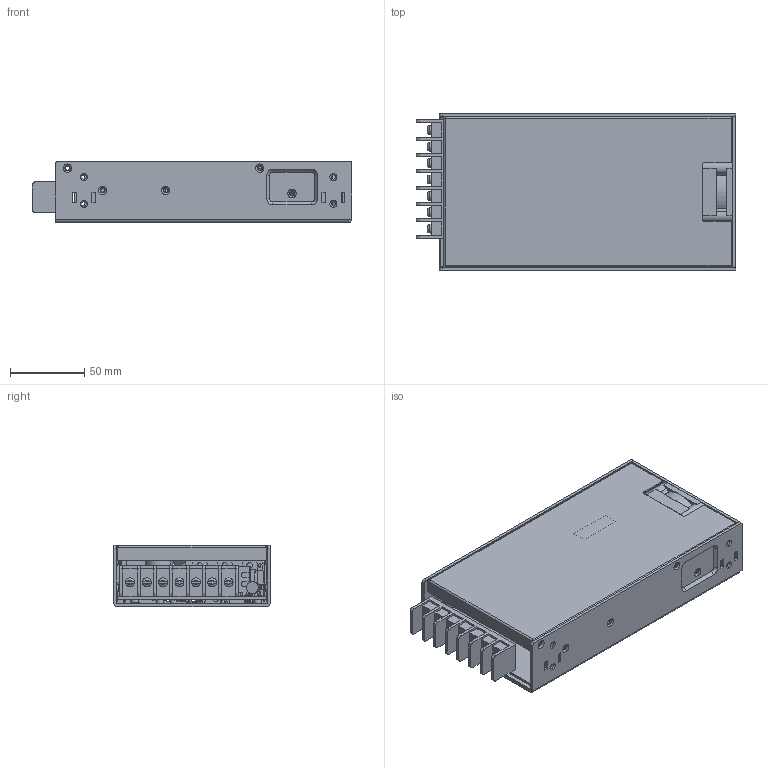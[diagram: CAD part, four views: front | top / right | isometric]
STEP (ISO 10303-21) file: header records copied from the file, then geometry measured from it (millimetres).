
FILE_DESCRIPTION(('Creo Elements/Direct Modeling STEP Export'),'2;1');
FILE_NAME('HRP-300NSTEP.stp','2020-10-22T11:49:40',(''),(''),'PTC Creo Elements/Direct Modeling STEP processor for AP214 (Solid Model)','PTC Creo Elements/Direct Modeling 19.0E 27-Jun-2016 (C) Parametric Technology GmbH','');
FILE_SCHEMA(('AUTOMOTIVE_DESIGN { 1 0 10303 214 1 1 1 1 }'));
Length unit declared in the file: millimetre
Products named in the file (148): tn.1.1.1.1; 26D77668-81B1-466B-87E3-FC1E3B3698CD; SW3dPS-fan-40x40x15.STEP; MOS15.5x10.2.1.1; MOS15.5x10.1.1.1.3.1.1.1; MOS; p7.1; p2; HS3; 1; clip.1; p1.3.1.1; p1.3.1; SM; DD; FF; part2; 872594008_1.PRT; 872594008_2.PRT; 872594008_3.PRT; 872594008_4.PRT; 872594008.ASM; J10.ASM; CYLINDER-431023.PRT; 664362456.ASM.7; CYLINDER-431215.PRT; 872607384.ASM; SPHERE-431407.PRT; 664362760.ASM; J101.ASM; 1BCA-L050H070-P020.PRT; C150.ASM; 1BCA-L180H250-P075-VT_1.PRT; 1BCA-L180H250-P075-VT_2.PRT; 1BCA-L180H250-P075-VT_3.PRT; 1BCA-L180H250-P075-VT_4.PRT; 1BCA-L180H250-P075-VT_5.PRT; 1BCA-L180H250-P075-VT_6.PRT; 1BCA-L180H250-P075-VT.ASM; C6.ASM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
Assembly tree (182 placements, depth 8):
  HRP-300N
    CASE
      p1
      BASE
        p2
        M3-7L.1.1.1  x5
    散热片
      p3
      HS-303A
      66
      33
    PCB
      pcba
    装配1
      part1
        uu.3
        PCB.ASM
          J126.ASM
            664362456.ASM.7  x2
              CYLINDER-431023.PRT
            664362608.ASM
              CYLINDER-469711.PRT
            664362760.ASM  x2
              SPHERE-431407.PRT
          J112.ASM
            R2512.ASM
          C124.ASM
            1BCA-L080H012-P035-VT.ASM
              USER_LIBRARY-CAP_ELECTRO-318482.PRT
              USER_LIBRARY-CAP_ELECTRO-317013.ASM
                USER_LIBRARY-CAP_ELECTRO-3170_3.PRT
                USER_LIBRARY-CAP_ELECTRO-3170_2.PRT
                USER_LIBRARY-CAP_ELECTRO-3170_1.PRT
              USER_LIBRARY-CAP_ELECTRO-313737.PRT
              USER_LIBRARY-CAP_ELECTRO-310894.PRT
              USER_LIBRARY-CAP_ELECTRO-308328.PRT
          J125.ASM
            664362456.ASM.7  x2
              CYLINDER-431023.PRT
            664362608.ASM
              CYLINDER-469711.PRT
            664362760.ASM  x2
              SPHERE-431407.PRT
          C151.ASM
            1BCA-L050H070-P020.PRT
          J110.ASM
            R2512.ASM
          J12.ASM
            664357136.ASM
              664357136_4.PRT
              664357136_3.PRT
              664357136_2.PRT
              664357136_1.PRT
          J111.ASM
            R2512.ASM
          R14.ASM
            872607232.ASM
              CYLINDER-375256.PRT
            872607080.ASM
              CYLINDER-375064.PRT
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Bounding box: 214.5 x 105 x 41 mm (x, y, z)
Volume: 235274.3 mm3; surface area: 268808.7 mm2
Topology: 118 solids, 118 shells, 2538 faces, 6465 edges, 4210 vertices
Faces by surface type: plane 1318, cylinder 805, torus 184, bspline 99, sphere 72, cone 60
Entity records: 76002 total; most frequent: CARTESIAN_POINT 19779, ORIENTED_EDGE 10418, DIRECTION 9463, EDGE_CURVE 5209, VERTEX_POINT 3445, AXIS2_PLACEMENT_3D 3288, VECTOR 2887, LINE 2887
